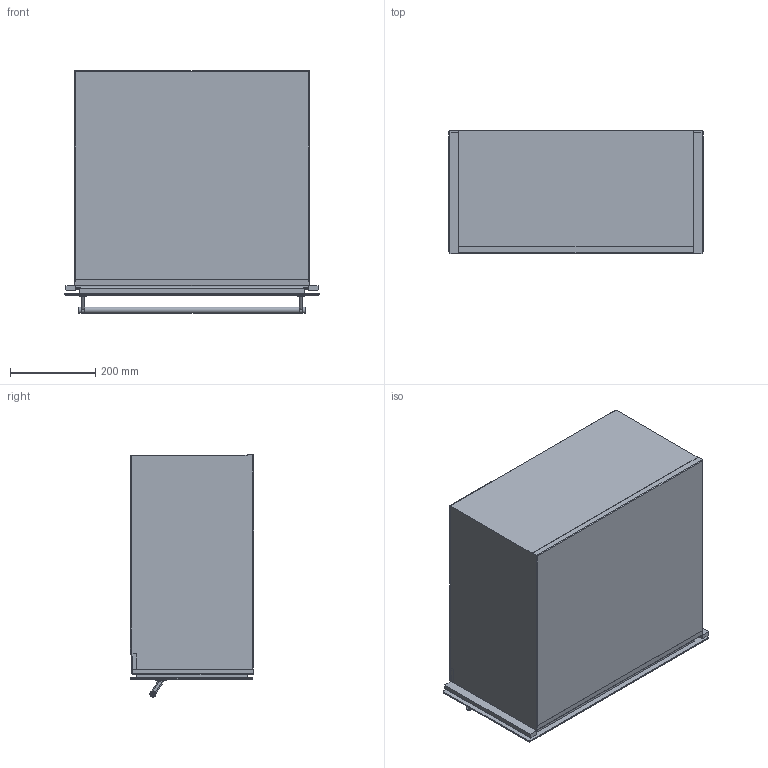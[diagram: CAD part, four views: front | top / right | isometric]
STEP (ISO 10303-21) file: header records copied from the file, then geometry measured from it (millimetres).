
FILE_DESCRIPTION (( 'STEP AP214' ), '1' );
FILE_NAME ('CR329X.STEP', '2017-12-01T10:31:19', ( '' ), ( '' ), 'SwSTEP 2.0', 'SolidWorks 2016', '' );
FILE_SCHEMA (( 'AUTOMOTIVE_DESIGN' ));
Length unit declared in the file: millimetre
Products named in the file (1): CR329X
Bounding box: 597 x 290 x 568.9 mm (x, y, z)
Volume: 83629189.2 mm3; surface area: 1946482.4 mm2
Topology: 6 solids, 6 shells, 199 faces, 477 edges, 298 vertices
Faces by surface type: cylinder 79, plane 76, torus 24, cone 12, bspline 8
Entity records: 7132 total; most frequent: CARTESIAN_POINT 2507, ORIENTED_EDGE 954, DIRECTION 941, EDGE_CURVE 477, AXIS2_PLACEMENT_3D 346, VERTEX_POINT 298, VECTOR 249, LINE 249
